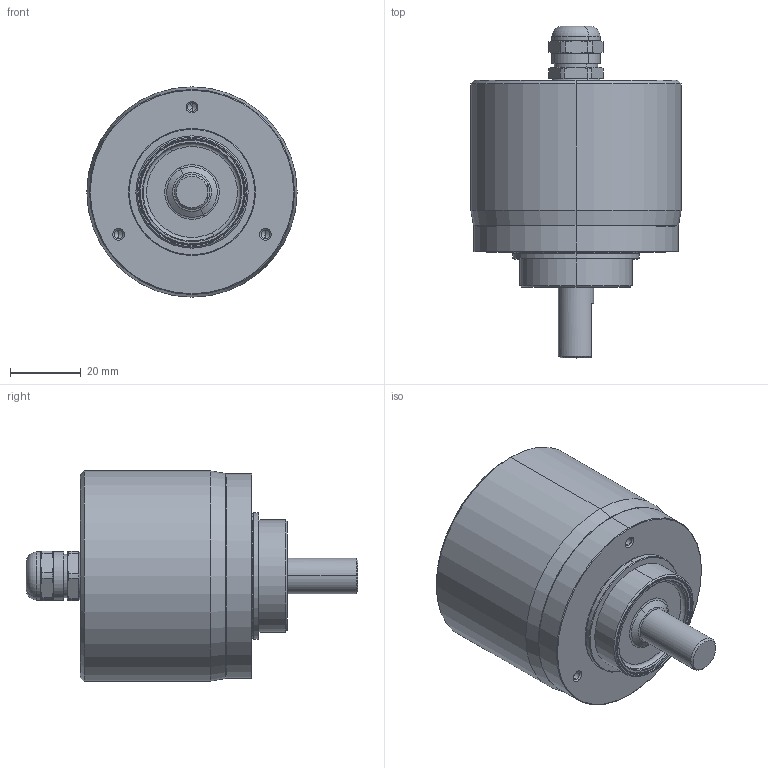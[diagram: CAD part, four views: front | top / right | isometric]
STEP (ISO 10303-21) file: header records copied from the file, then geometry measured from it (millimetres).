
FILE_DESCRIPTION (( 'STEP AP214' ), '1' );
FILE_NAME ('H11x9x.00K.STEP', '2024-06-26T11:23:44', ( '' ), ( '' ), 'SwSTEP 2.0', 'SolidWorks 2019', '' );
FILE_SCHEMA (( 'AUTOMOTIVE_DESIGN' ));
Length unit declared in the file: millimetre
Products named in the file (1): H11x9x.00K
Bounding box: 59.5 x 93.9 x 59.5 mm (x, y, z)
Volume: 71813.8 mm3; surface area: 36320.8 mm2
Topology: 1 solids, 7 shells, 319 faces, 688 edges, 412 vertices
Faces by surface type: cylinder 108, cone 96, plane 63, torus 34, sphere 18
Entity records: 12229 total; most frequent: DIRECTION 1764, CARTESIAN_POINT 1418, ORIENTED_EDGE 1352, AXIS2_PLACEMENT_3D 770, EDGE_CURVE 676, CIRCLE 450, VERTEX_POINT 412, EDGE_LOOP 370
